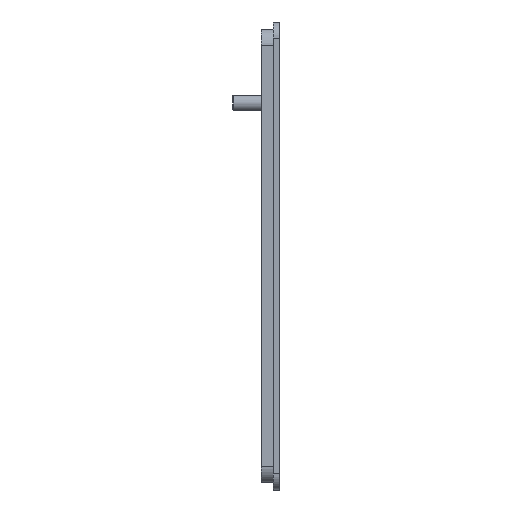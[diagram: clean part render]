
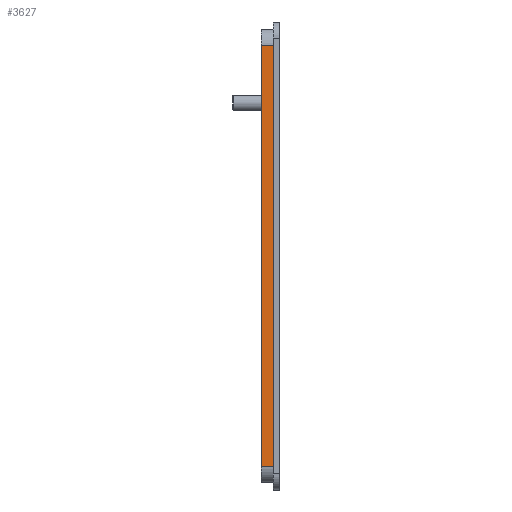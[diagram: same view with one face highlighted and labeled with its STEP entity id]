
A CAD part, left-side view. The second image highlights one B-rep face of the part: STEP entity #3627.
In plain terms, the highlighted planar face has unit normal (-1, 0, 0) as drawn and (1, 0, 0) by its records, which use the part's own axes.
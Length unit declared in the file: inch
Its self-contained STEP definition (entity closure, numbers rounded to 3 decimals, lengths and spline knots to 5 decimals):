
#126 = FACE_OUTER_BOUND ( 'NONE', #7729, .T. ) ;
#1286 = VECTOR ( 'NONE', #6579, 39.37008 ) ;
#1298 = LINE ( 'NONE', #6578, #1286 ) ;
#1583 = DIRECTION ( 'NONE',  ( 0., 0., -1. ) ) ;
#1585 = DIRECTION ( 'NONE',  ( 1., 0., 0. ) ) ;
#1601 = PLANE ( 'NONE',  #5726 ) ;
#1610 = CARTESIAN_POINT ( 'NONE',  ( 18.75, 0.25, -0.187 ) ) ;
#2071 = VECTOR ( 'NONE', #7349, 39.37008 ) ;
#2072 = LINE ( 'NONE', #7348, #2071 ) ;
#2190 = VECTOR ( 'NONE', #6911, 39.37008 ) ;
#2191 = LINE ( 'NONE', #6910, #2190 ) ;
#2200 = VECTOR ( 'NONE', #6890, 39.37008 ) ;
#2203 = LINE ( 'NONE', #6889, #2200 ) ;
#2423 = VERTEX_POINT ( 'NONE', #2560 ) ;
#2508 = CARTESIAN_POINT ( 'NONE',  ( 18.75, 0.25, 0. ) ) ;
#2528 = VERTEX_POINT ( 'NONE', #2508 ) ;
#2545 = CARTESIAN_POINT ( 'NONE',  ( 18.75, 6.75, -0.187 ) ) ;
#2560 = CARTESIAN_POINT ( 'NONE',  ( 18.75, 6.75, 0. ) ) ;
#2620 = VERTEX_POINT ( 'NONE', #2545 ) ;
#2742 = VERTEX_POINT ( 'NONE', #2895 ) ;
#2895 = CARTESIAN_POINT ( 'NONE',  ( 18.75, 0.25, -0.187 ) ) ;
#3627 = ADVANCED_FACE ( 'NONE', ( #126 ), #1601, .T. ) ;
#5506 = EDGE_CURVE ( 'NONE', #2620, #2423, #1298, .T. ) ;
#5590 = EDGE_CURVE ( 'NONE', #2528, #2423, #2203, .T. ) ;
#5594 = EDGE_CURVE ( 'NONE', #2742, #2528, #2191, .T. ) ;
#5726 = AXIS2_PLACEMENT_3D ( 'NONE', #1610, #1585, #1583 ) ;
#5878 = EDGE_CURVE ( 'NONE', #2742, #2620, #2072, .T. ) ;
#6578 = CARTESIAN_POINT ( 'NONE',  ( 18.75, 6.75, -0.187 ) ) ;
#6579 = DIRECTION ( 'NONE',  ( 0., 0., 1. ) ) ;
#6889 = CARTESIAN_POINT ( 'NONE',  ( 18.75, 0.25, 0. ) ) ;
#6890 = DIRECTION ( 'NONE',  ( 0., 1., 0. ) ) ;
#6910 = CARTESIAN_POINT ( 'NONE',  ( 18.75, 0.25, -0.187 ) ) ;
#6911 = DIRECTION ( 'NONE',  ( 0., 0., 1. ) ) ;
#7348 = CARTESIAN_POINT ( 'NONE',  ( 18.75, 0.25, -0.187 ) ) ;
#7349 = DIRECTION ( 'NONE',  ( 0., 1., 0. ) ) ;
#7729 = EDGE_LOOP ( 'NONE', ( #8108, #8107, #8106, #8105 ) ) ;
#8105 = ORIENTED_EDGE ( 'NONE', *, *, #5506, .T. ) ;
#8106 = ORIENTED_EDGE ( 'NONE', *, *, #5878, .T. ) ;
#8107 = ORIENTED_EDGE ( 'NONE', *, *, #5594, .F. ) ;
#8108 = ORIENTED_EDGE ( 'NONE', *, *, #5590, .F. ) ;
